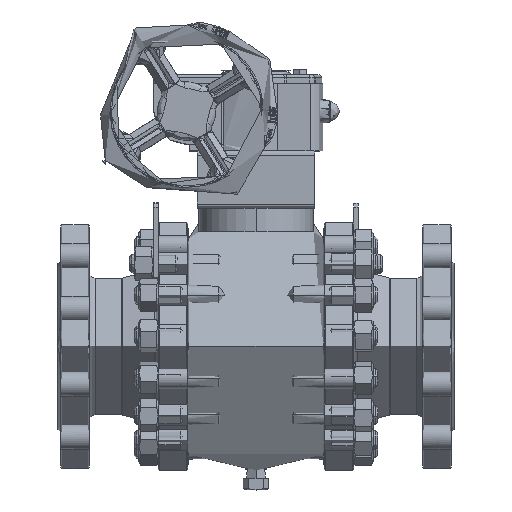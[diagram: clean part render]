
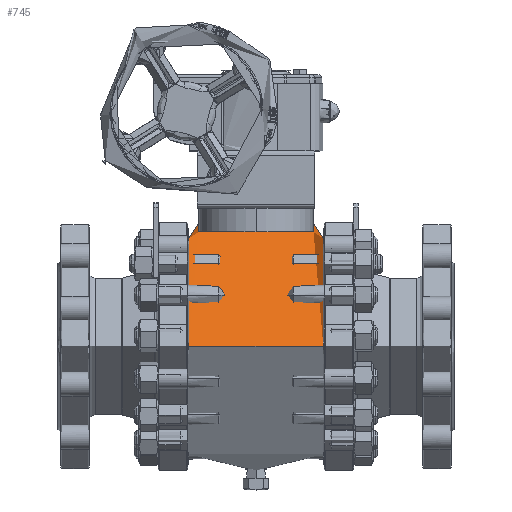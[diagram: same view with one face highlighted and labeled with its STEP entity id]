
A CAD part, top view. The second image highlights one B-rep face of the part: STEP entity #745.
In plain terms, the highlighted cylindrical face has radius 127.5 mm (diameter 255 mm), a partial arc.
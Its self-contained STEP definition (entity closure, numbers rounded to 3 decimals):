
#745=ADVANCED_FACE('',(#3399,#3401),#3403,.T.);
#3399=FACE_BOUND('',#3400,.T.);
#3400=EDGE_LOOP('',(#14068,#14069,#14070,#14071));
#3401=FACE_OUTER_BOUND('',#3402,.T.);
#3402=EDGE_LOOP('',(#14072,#14073,#14074,#14075));
#3403=CYLINDRICAL_SURFACE('',#3404,127.5);
#3404=AXIS2_PLACEMENT_3D('',#3405,#3406,#3407);
#3405=CARTESIAN_POINT('',(0.,0.,0.));
#3406=DIRECTION('',(1.,-0.,-0.));
#3407=DIRECTION('',(0.,0.,-1.));
#14068=ORIENTED_EDGE('',*,*,#20978,.T.);
#14069=ORIENTED_EDGE('',*,*,#20925,.T.);
#14070=ORIENTED_EDGE('',*,*,#20979,.T.);
#14071=ORIENTED_EDGE('',*,*,#20923,.T.);
#14072=ORIENTED_EDGE('',*,*,#20642,.T.);
#14073=ORIENTED_EDGE('',*,*,#20638,.T.);
#14074=ORIENTED_EDGE('',*,*,#20679,.T.);
#14075=ORIENTED_EDGE('',*,*,#20639,.F.);
#20638=EDGE_CURVE('',#24257,#24268,#24269,.T.);
#20639=EDGE_CURVE('',#24261,#24270,#24271,.T.);
#20642=EDGE_CURVE('',#24261,#24257,#24274,.T.);
#20679=EDGE_CURVE('',#24268,#24270,#24345,.T.);
#20923=EDGE_CURVE('',#24737,#24735,#24738,.T.);
#20925=EDGE_CURVE('',#24734,#24739,#24741,.T.);
#20978=EDGE_CURVE('',#24735,#24734,#24820,.T.);
#20979=EDGE_CURVE('',#24739,#24737,#24821,.T.);
#24257=VERTEX_POINT('',#30181);
#24261=VERTEX_POINT('',#30190);
#24268=VERTEX_POINT('',#30477);
#24269=LINE('',#30478,#30479);
#24270=VERTEX_POINT('',#30481);
#24271=LINE('',#30482,#30483);
#24274=CIRCLE('',#30493,127.5);
#24345=CIRCLE('',#30673,127.5);
#24734=VERTEX_POINT('',#31932);
#24735=VERTEX_POINT('',#31933);
#24737=VERTEX_POINT('',#31937);
#24738=LINE('',#31938,#31939);
#24739=VERTEX_POINT('',#31941);
#24741=LINE('',#31945,#31946);
#24820=CIRCLE('',#32396,127.5);
#24821=CIRCLE('',#32400,127.5);
#30181=CARTESIAN_POINT('',(-69.,0.,127.5));
#30190=CARTESIAN_POINT('',(-69.,0.,-127.5));
#30477=CARTESIAN_POINT('',(69.,0.,127.5));
#30478=CARTESIAN_POINT('',(-69.,0.,127.5));
#30479=VECTOR('',#30480,1.);
#30480=DIRECTION('',(1.,0.,0.));
#30481=CARTESIAN_POINT('',(69.,0.,-127.5));
#30482=CARTESIAN_POINT('',(-69.,0.,-127.5));
#30483=VECTOR('',#30484,1.);
#30484=DIRECTION('',(1.,0.,0.));
#30493=AXIS2_PLACEMENT_3D('',#30494,#30495,#30496);
#30494=CARTESIAN_POINT('',(-69.,0.,0.));
#30495=DIRECTION('',(1.,-0.,0.));
#30496=DIRECTION('',(0.,0.,-1.));
#30673=AXIS2_PLACEMENT_3D('',#30674,#30675,#30676);
#30674=CARTESIAN_POINT('',(69.,0.,0.));
#30675=DIRECTION('',(-1.,0.,0.));
#30676=DIRECTION('',(0.,0.,1.));
#31932=CARTESIAN_POINT('',(59.,117.5,49.497));
#31933=CARTESIAN_POINT('',(59.,117.5,-49.497));
#31937=CARTESIAN_POINT('',(-59.,117.5,-49.497));
#31938=CARTESIAN_POINT('',(-59.,117.5,-49.497));
#31939=VECTOR('',#31940,1.);
#31940=DIRECTION('',(1.,0.,0.));
#31941=CARTESIAN_POINT('',(-59.,117.5,49.497));
#31945=CARTESIAN_POINT('',(59.,117.5,49.497));
#31946=VECTOR('',#31947,1.);
#31947=DIRECTION('',(-1.,0.,0.));
#32396=AXIS2_PLACEMENT_3D('',#32397,#32398,#32399);
#32397=CARTESIAN_POINT('',(59.,0.,0.));
#32398=DIRECTION('',(1.,0.,0.));
#32399=DIRECTION('',(0.,0.922,-0.388));
#32400=AXIS2_PLACEMENT_3D('',#32401,#32402,#32403);
#32401=CARTESIAN_POINT('',(-59.,0.,0.));
#32402=DIRECTION('',(-1.,0.,0.));
#32403=DIRECTION('',(0.,0.922,0.388));
